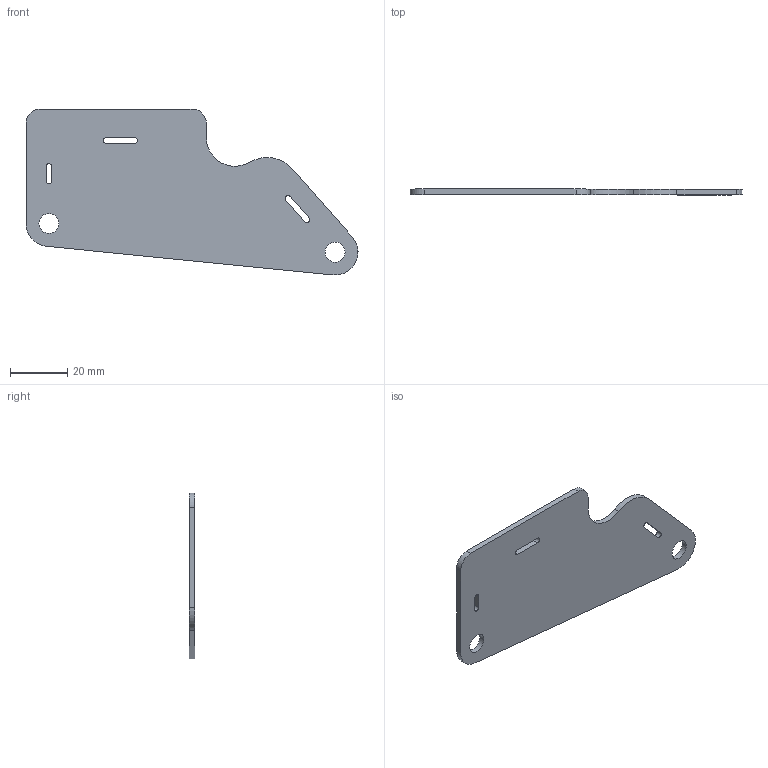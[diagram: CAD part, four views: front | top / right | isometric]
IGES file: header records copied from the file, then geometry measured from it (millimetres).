
Start section: START RECORD GO HERE.
Global section: file name: FR_11001_1 (Frame Throttle).igs; native system: IBM CATIA IGES - CATIA Version 5 Release 19 ; preprocessor: CATIA Version 5 Release 19 ; author: jacqu; organization: ASUS-TUF-JACQUE; date: 20200226.091859; units: millimetre
Bounding box: 115.99 x 2 x 57.98 mm (x, y, z)
Surface area: 10152.1 mm2 (no closed solid volume)
Topology: 0 solids, 0 shells, 29 faces, 162 edges, 162 vertices
Faces by surface type: revolution 16, plane 13
